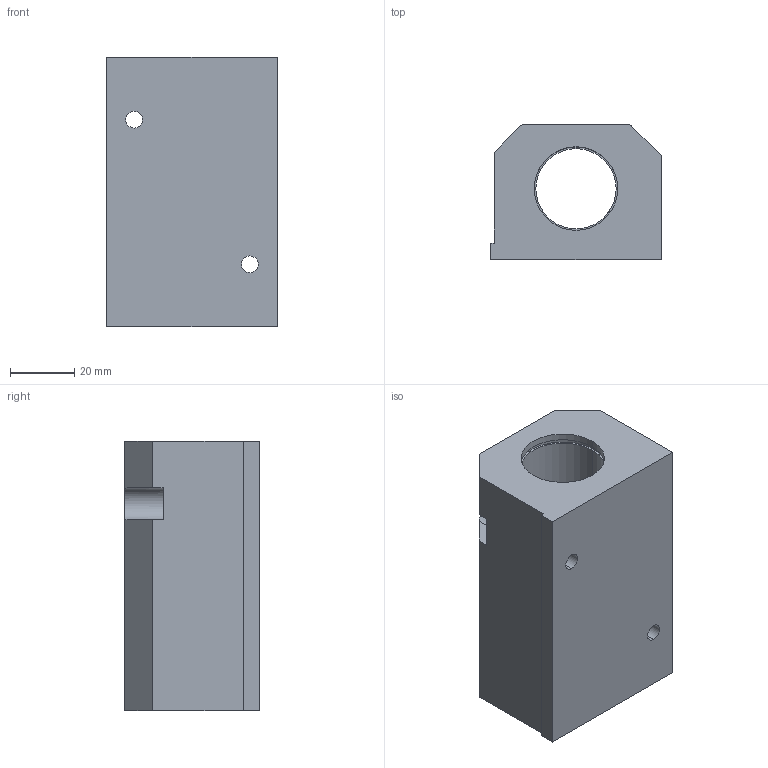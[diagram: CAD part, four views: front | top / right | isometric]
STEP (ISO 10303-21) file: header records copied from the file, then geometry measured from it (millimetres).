
FILE_DESCRIPTION (( 'STEP AP214' ), '1' );
FILE_NAME ('KTG85-16.step', '2020-03-04T13:25:02', ( '' ), ( '' ), 'SwSTEP 2.0', 'SolidWorks 2019', '' );
FILE_SCHEMA (( 'AUTOMOTIVE_DESIGN' ));
Length unit declared in the file: millimetre
Products named in the file (1): KTG85-16
Bounding box: 53 x 42 x 84 mm (x, y, z)
Volume: 128309.3 mm3; surface area: 27025.6 mm2
Topology: 1 solids, 1 shells, 50 faces, 122 edges, 80 vertices
Faces by surface type: cylinder 24, plane 24, cone 2
Entity records: 1648 total; most frequent: CARTESIAN_POINT 321, DIRECTION 264, ORIENTED_EDGE 244, EDGE_CURVE 122, AXIS2_PLACEMENT_3D 97, VERTEX_POINT 80, LINE 70, VECTOR 70
